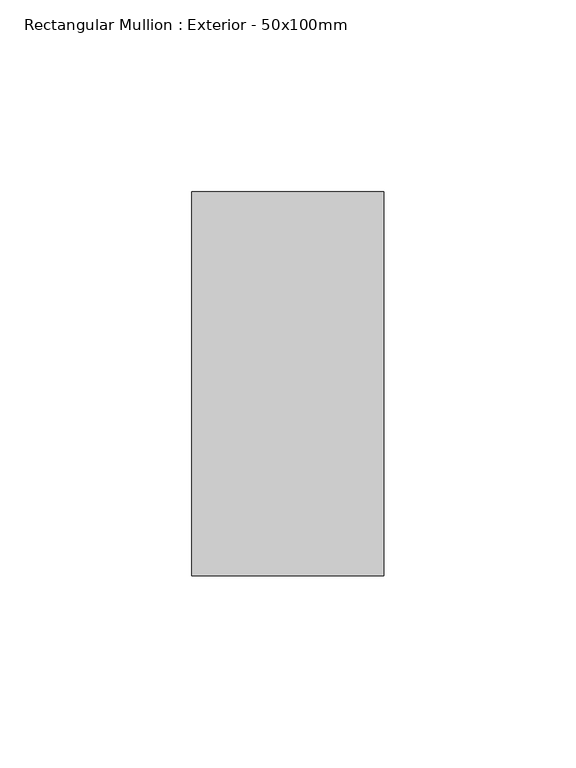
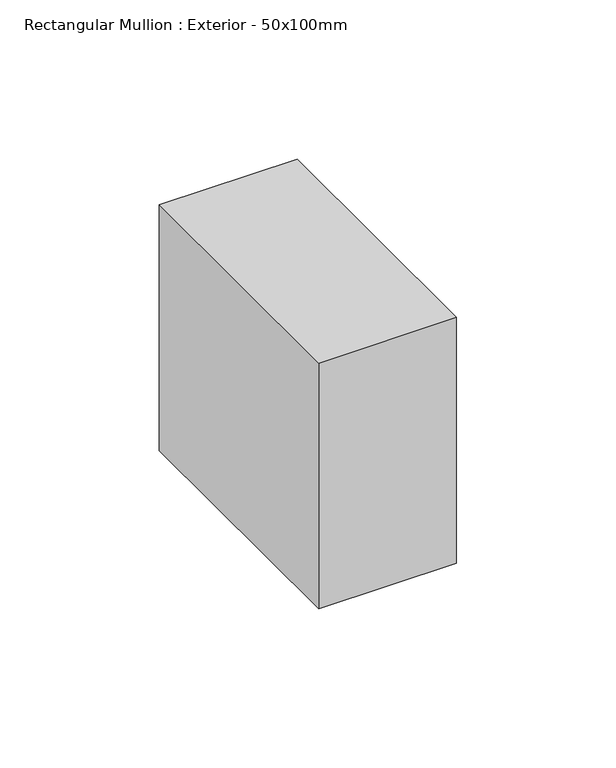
"""IFC4 building model written with IfcOpenShell, lengths in millimetres: member geometry, Rectangular Mullion : Exterior - 50x100mm."""

from ifc_helpers import new_model, si_unit, frame, origin, place, context, project, spatial, polyline, outline, extrude, source, transform, mapped, element, save


def rectangular_mullion_exterior_50x100mm_2bde0a3b(model_context):
    return source(origin(), model_context, "Body", "SweptSolid", [
        extrude(outline(polyline([(0.0, 100.0), (0.0, 0.0), (-50.0, 0.0), (-50.0, 100.0), (0.0, 100.0)])), frame((0.0, 0.0, -94.127622), z_axis=(0.0, 0.0, 1.0), x_axis=(1.0, 0.0, 0.0)), (0.0, 0.0, 1.0), 94.127622),
    ])


if __name__ == "__main__":
    model = new_model("IFC4")
    model_context = context("Model", 3, world=origin())
    ifc_project = project(units=[si_unit("LENGTHUNIT", "METRE", prefix="MILLI")], contexts=[model_context])
    site = spatial("IfcSite", under=ifc_project)
    building = spatial("IfcBuilding", under=site)
    placement = place(None, origin())
    rectangular_mullion_exterior_50x100mm_shape = rectangular_mullion_exterior_50x100mm_2bde0a3b(model_context)
    element("IfcMember", 1, ObjectType="Rectangular Mullion : Exterior - 50x100mm", at=placement, inside=building, context=model_context, shape_type="MappedRepresentation", body=[
        mapped(rectangular_mullion_exterior_50x100mm_shape, transform((0.0, 0.0, 0.0), x_axis=(1.0, 0.0, 0.0), y_axis=(0.0, 1.0, 0.0), z_axis=(0.0, 0.0, 1.0))),
    ])
    save(model, "model.ifc")
